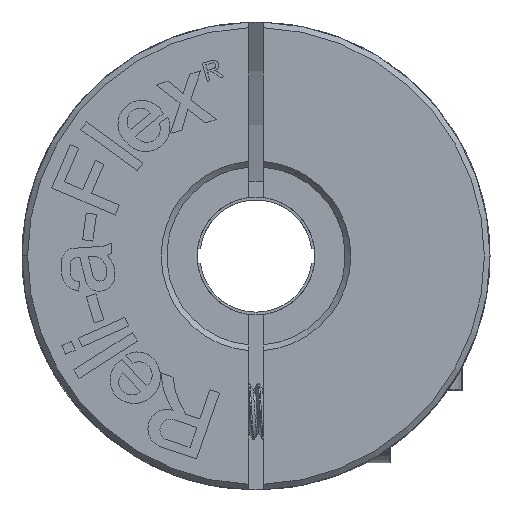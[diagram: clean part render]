
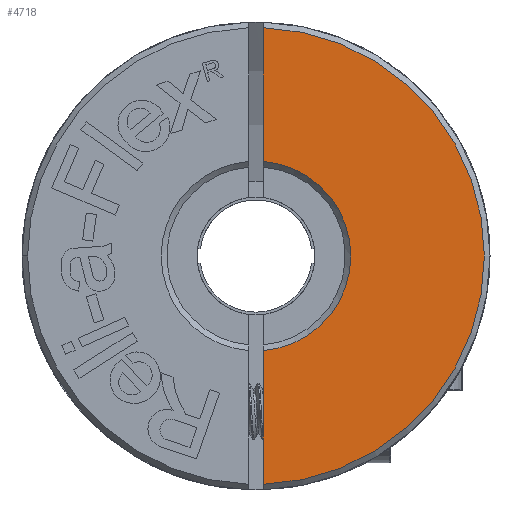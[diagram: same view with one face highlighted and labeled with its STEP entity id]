
A CAD part, front view. The second image highlights one B-rep face of the part: STEP entity #4718.
In plain terms, the highlighted planar face has unit normal (0, -1, 0).
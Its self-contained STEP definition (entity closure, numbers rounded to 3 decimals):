
#1489 = ORIENTED_EDGE ( 'NONE', *, *, #16352, .F. ) ;
#1490 = ORIENTED_EDGE ( 'NONE', *, *, #16353, .F. ) ;
#1491 = ORIENTED_EDGE ( 'NONE', *, *, #16354, .F. ) ;
#1492 = ORIENTED_EDGE ( 'NONE', *, *, #16331, .T. ) ;
#3254 = CARTESIAN_POINT ( 'NONE',  ( 0.4, 0., -5.049 ) ) ;
#3255 = CARTESIAN_POINT ( 'NONE',  ( 0.4, 0., 5.049 ) ) ;
#3259 = CARTESIAN_POINT ( 'NONE',  ( 0.4, 0., -12.193 ) ) ;
#3269 = CARTESIAN_POINT ( 'NONE',  ( 0.4, 0., 12.193 ) ) ;
#4718 = ADVANCED_FACE ( 'NONE', ( #12990 ), #12991, .T. ) ;
#5462 = CARTESIAN_POINT ( 'NONE',  ( 0., 0., 0. ) ) ;
#5463 = DIRECTION ( 'NONE',  ( 0., 1., 0. ) ) ;
#5464 = DIRECTION ( 'NONE',  ( 0., 0., -1. ) ) ;
#5518 = CARTESIAN_POINT ( 'NONE',  ( 0.4, 0., -7.809 ) ) ;
#5519 = LINE ( 'NONE', #5518, #11116 ) ;
#5526 = CARTESIAN_POINT ( 'NONE',  ( 0.4, 0., 7.809 ) ) ;
#5527 = DIRECTION ( 'NONE',  ( 0., 0., 1. ) ) ;
#5528 = LINE ( 'NONE', #5526, #11118 ) ;
#5529 = CARTESIAN_POINT ( 'NONE',  ( 0., 0., 0. ) ) ;
#5530 = DIRECTION ( 'NONE',  ( 0., 1., 0. ) ) ;
#5531 = DIRECTION ( 'NONE',  ( -1., 0., 0. ) ) ;
#5532 = DIRECTION ( 'NONE',  ( 0., 0., 1. ) ) ;
#10661 = VERTEX_POINT ( 'NONE', #3254 ) ;
#10662 = VERTEX_POINT ( 'NONE', #3255 ) ;
#10666 = VERTEX_POINT ( 'NONE', #3259 ) ;
#10676 = VERTEX_POINT ( 'NONE', #3269 ) ;
#11083 = CIRCLE ( 'NONE', #11088, 5.065 ) ;
#11088 = AXIS2_PLACEMENT_3D ( 'NONE', #5462, #5463, #5464 ) ;
#11114 = CIRCLE ( 'NONE', #11120, 12.2 ) ;
#11116 = VECTOR ( 'NONE', #5527, 1000. ) ;
#11118 = VECTOR ( 'NONE', #5532, 1000. ) ;
#11120 = AXIS2_PLACEMENT_3D ( 'NONE', #5529, #5530, #5531 ) ;
#12802 = EDGE_LOOP ( 'NONE', ( #1489, #1490, #1491, #1492 ) ) ;
#12983 = CARTESIAN_POINT ( 'NONE',  ( 0.4, 0., 12.34 ) ) ;
#12990 = FACE_OUTER_BOUND ( 'NONE', #12802, .T. ) ;
#12991 = PLANE ( 'NONE',  #18219 ) ;
#12994 = DIRECTION ( 'NONE',  ( 0., -1., 0. ) ) ;
#12995 = DIRECTION ( 'NONE',  ( 0., 0., -1. ) ) ;
#16331 = EDGE_CURVE ( 'NONE', #10662, #10661, #11083, .T. ) ;
#16352 = EDGE_CURVE ( 'NONE', #10666, #10661, #5519, .T. ) ;
#16353 = EDGE_CURVE ( 'NONE', #10676, #10666, #11114, .T. ) ;
#16354 = EDGE_CURVE ( 'NONE', #10662, #10676, #5528, .T. ) ;
#18219 = AXIS2_PLACEMENT_3D ( 'NONE', #12983, #12994, #12995 ) ;
